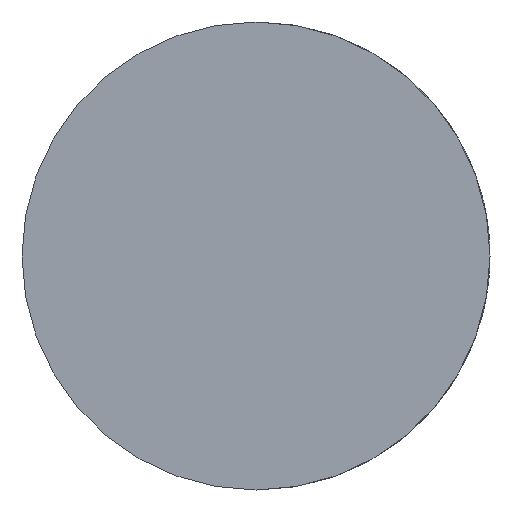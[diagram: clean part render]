
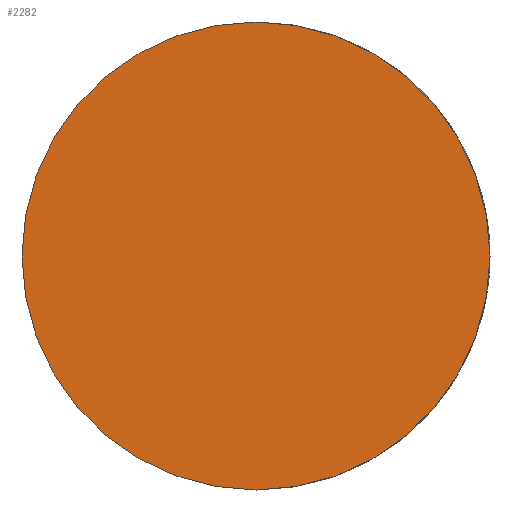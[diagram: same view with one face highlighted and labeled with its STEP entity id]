
A CAD part, front view. The second image highlights one B-rep face of the part: STEP entity #2282.
In plain terms, the highlighted planar face has unit normal (0, -1, 0).
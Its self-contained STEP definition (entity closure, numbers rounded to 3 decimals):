
#91 = DIRECTION ( 'NONE',  ( 0., -1., 0. ) ) ;
#168 = CARTESIAN_POINT ( 'NONE',  ( 0., 0., 12.5 ) ) ;
#215 = EDGE_LOOP ( 'NONE', ( #1149, #622 ) ) ;
#263 = CARTESIAN_POINT ( 'NONE',  ( 0., 0., 0. ) ) ;
#325 = EDGE_CURVE ( 'NONE', #2258, #2280, #2095, .T. ) ;
#336 = FACE_OUTER_BOUND ( 'NONE', #215, .T. ) ;
#351 = CARTESIAN_POINT ( 'NONE',  ( 0., 0., 0. ) ) ;
#470 = AXIS2_PLACEMENT_3D ( 'NONE', #263, #2242, #814 ) ;
#622 = ORIENTED_EDGE ( 'NONE', *, *, #685, .T. ) ;
#633 = CARTESIAN_POINT ( 'NONE',  ( 0., 0., 0. ) ) ;
#685 = EDGE_CURVE ( 'NONE', #2280, #2258, #757, .T. ) ;
#757 = CIRCLE ( 'NONE', #1323, 12.5 ) ;
#814 = DIRECTION ( 'NONE',  ( 0., 0., -1. ) ) ;
#937 = DIRECTION ( 'NONE',  ( 0., 0., -1. ) ) ;
#1149 = ORIENTED_EDGE ( 'NONE', *, *, #325, .T. ) ;
#1323 = AXIS2_PLACEMENT_3D ( 'NONE', #633, #91, #1504 ) ;
#1504 = DIRECTION ( 'NONE',  ( 0., 0., -1. ) ) ;
#1674 = DIRECTION ( 'NONE',  ( 0., -1., 0. ) ) ;
#1964 = CARTESIAN_POINT ( 'NONE',  ( 0., 0., -12.5 ) ) ;
#1976 = PLANE ( 'NONE',  #1980 ) ;
#1980 = AXIS2_PLACEMENT_3D ( 'NONE', #351, #1674, #937 ) ;
#2095 = CIRCLE ( 'NONE', #470, 12.5 ) ;
#2242 = DIRECTION ( 'NONE',  ( 0., -1., 0. ) ) ;
#2258 = VERTEX_POINT ( 'NONE', #168 ) ;
#2280 = VERTEX_POINT ( 'NONE', #1964 ) ;
#2282 = ADVANCED_FACE ( 'NONE', ( #336 ), #1976, .T. ) ;
